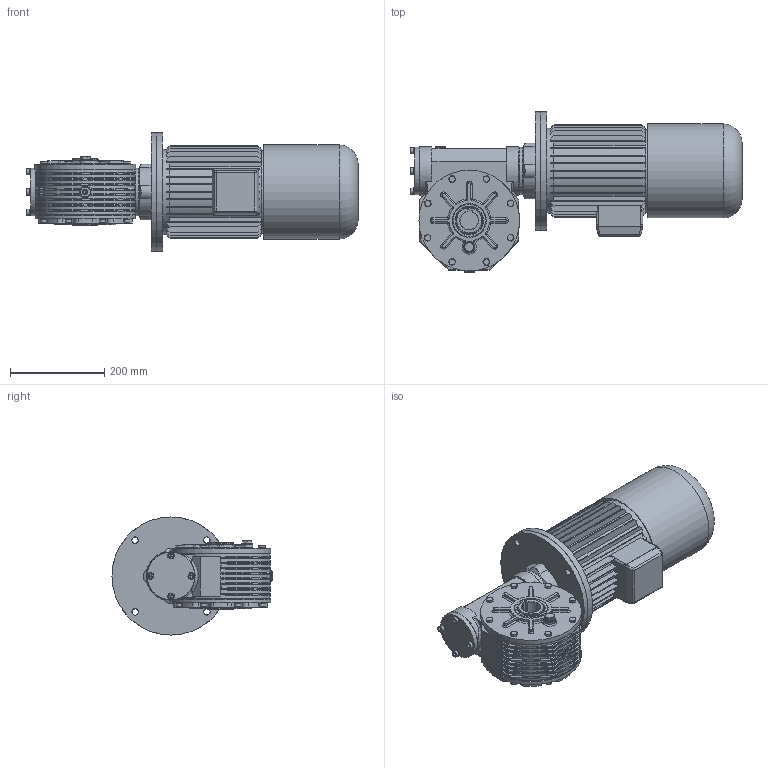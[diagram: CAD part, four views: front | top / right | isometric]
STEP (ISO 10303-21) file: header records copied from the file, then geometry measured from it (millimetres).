
FILE_DESCRIPTION((''),'2;1');
FILE_NAME('Y:\Archivi Inventor\Prog_01\GRAND_50\complessivi\Figurini\MRV50 sito\100l_autofrenante\mrv50_FP1_100_B5.stp','2013-02-08T10:10:15',('tech3'),(''),'Autodesk Inventor 2013','Autodesk Inventor 2013','');
FILE_SCHEMA(('AUTOMOTIVE_DESIGN { 1 0 10303 214 1 1 1 1 }'));
Length unit declared in the file: millimetre
Products named in the file (20): mrv50_100_112b5; mrv50_fig; Figurino_carcassa_MRV50; 0105028; 0105029; figurino_corona_MRV50; Guarnizione 3_8 GAS; Tappo 3_8 GAS_esagn_incsst; figurino_0105009; ISO 4017 M8 x 20; 55_70_8; fig_0105002; ISO 4762 M8 x 16; Tappo3_8 GAS; fig_0105004; UNI 6592 8.4 x 14; UNI 5931  M 8 x  25; 0105006; DIN EN ISO 4762 M8 x 25; motori B5 brake 100
Assembly tree (48 placements, depth 3):
  mrv50_100_112b5
    mrv50_fig
      Figurino_carcassa_MRV50
      0105028  x2
      0105029  x2
      figurino_corona_MRV50
      Guarnizione 3_8 GAS  x3
      Tappo 3_8 GAS_esagn_incsst  x2
      figurino_0105009
      ISO 4017 M8 x 20  x8
      55_70_8  x2
      fig_0105002
      ISO 4762 M8 x 16  x8
      Tappo3_8 GAS
      fig_0105004
      UNI 6592 8.4 x 14  x4
      UNI 5931  M 8 x  25  x4
    0105006
    DIN EN ISO 4762 M8 x 25  x4
    motori B5 brake 100
Bounding box: 702.8 x 339 x 250 mm (x, y, z)
Volume: 12760781.3 mm3; surface area: 1530542.5 mm2
Topology: 50 solids, 62 shells, 2213 faces, 5417 edges, 3275 vertices
Faces by surface type: plane 868, cylinder 699, cone 213, torus 199, bspline 152, sphere 82
Full cylindrical faces by diameter (mm): 2 x2, 5 x1, 6.647 x24, 8 x26, 8.4 x4, 8.5 x48, 10.106 x4, 11.63 x8, 13 x20, 13.046 x1, 13.5 x4, 14 x8, 14.95 x3, 16.3 x3, 16.5 x2, 22 x6, 24 x2, 28 x1, 55 x1, 60 x1, 66.4 x2, 69 x2, 70 x5, 72 x4, 73 x2, 75 x1, 95 x1, 99.5 x2, 100 x1, 101 x1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
Entity records: 60185 total; most frequent: CARTESIAN_POINT 18303, DIRECTION 8839, ORIENTED_EDGE 7960, EDGE_CURVE 3980, AXIS2_PLACEMENT_3D 3546, VERTEX_POINT 2564, EDGE_LOOP 2194, CIRCLE 1833
